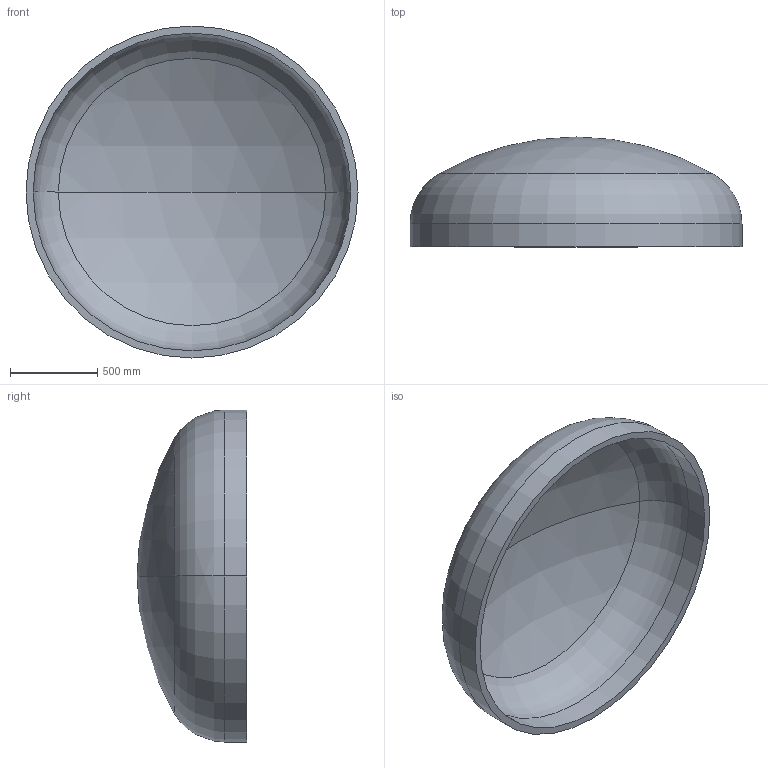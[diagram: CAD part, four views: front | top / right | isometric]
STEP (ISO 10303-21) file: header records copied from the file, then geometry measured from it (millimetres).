
FILE_DESCRIPTION (( 'STEP AP203' ), '1' );
FILE_NAME ('DIN 28013 Korbbogenform_-_Boden DIN 28013 - 1900 x 130 - I - s=41.step', '2016-07-01T13:08:58', ( '' ), ( '' ), 'SwSTEP 2.0', 'SolidWorks 2013', '' );
FILE_SCHEMA (( 'CONFIG_CONTROL_DESIGN' ));
Length unit declared in the file: millimetre
Products named in the file (1): DIN 28013 Korbbogenform_-_Boden DIN 28013 - 1900 x 130 - I - s=41
Bounding box: 1900 x 628.11 x 1900 mm (x, y, z)
Volume: 187347468.3 mm3; surface area: 9381867.8 mm2
Topology: 1 solids, 1 shells, 13 faces, 24 edges, 14 vertices
Faces by surface type: torus 4, cylinder 4, sphere 4, plane 1
Entity records: 407 total; most frequent: DIRECTION 72, CARTESIAN_POINT 52, ORIENTED_EDGE 48, AXIS2_PLACEMENT_3D 34, EDGE_CURVE 24, CIRCLE 20, VERTEX_POINT 14, EDGE_LOOP 14
